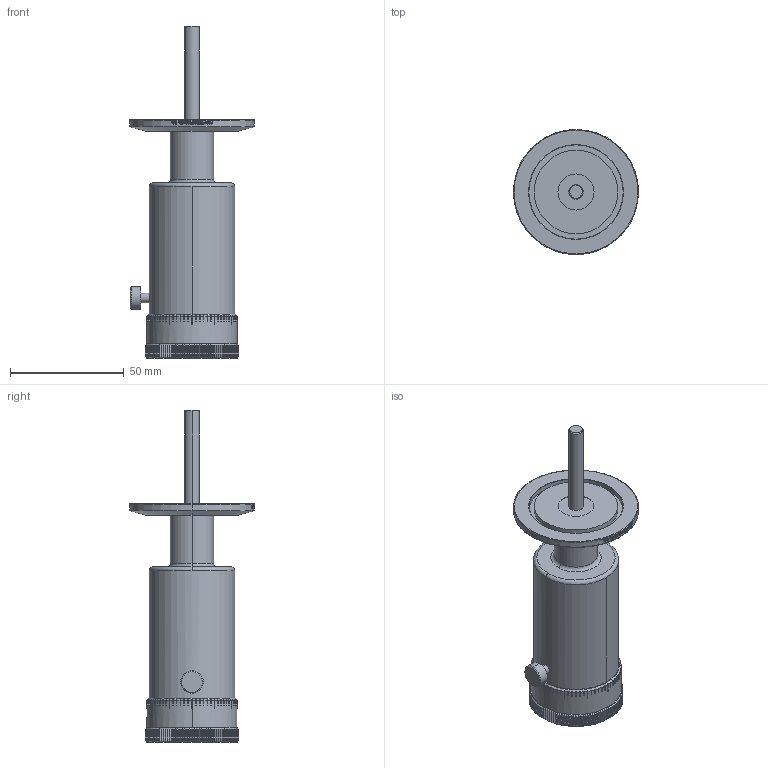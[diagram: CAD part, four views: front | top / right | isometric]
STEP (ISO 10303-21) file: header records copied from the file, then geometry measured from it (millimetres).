
FILE_DESCRIPTION (( 'STEP AP203' ), '1' );
FILE_NAME ('102150.stp', '2019-04-18T20:11:22', ( '' ), ( '' ), 'SwSTEP 2.0', 'SolidWorks 2012', '' );
FILE_SCHEMA (( 'CONFIG_CONTROL_DESIGN' ));
Length unit declared in the file: centimetre
Products named in the file (1): 102150
Bounding box: 54.86 x 54.86 x 145.9 mm (x, y, z)
Volume: 105970.2 mm3; surface area: 19894.8 mm2
Topology: 1 solids, 1 shells, 922 faces, 2632 edges, 1751 vertices
Faces by surface type: plane 477, cylinder 282, bspline 147, cone 16
Entity records: 54453 total; most frequent: CARTESIAN_POINT 32188, ORIENTED_EDGE 5264, DIRECTION 3794, EDGE_CURVE 2632, VERTEX_POINT 1751, AXIS2_PLACEMENT_3D 1404, VECTOR 986, LINE 986
